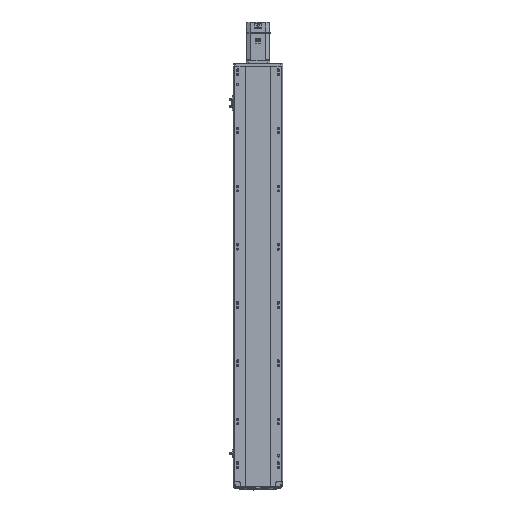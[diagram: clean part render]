
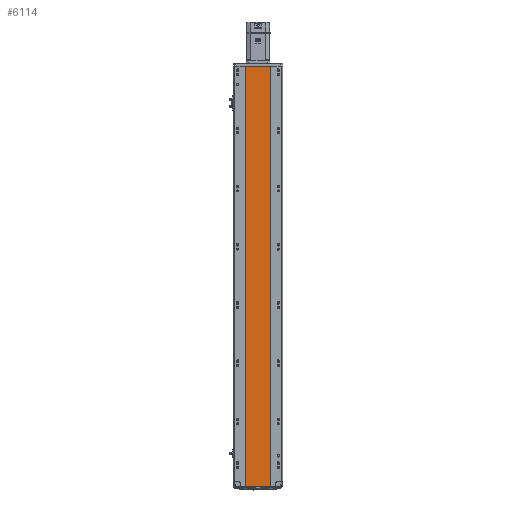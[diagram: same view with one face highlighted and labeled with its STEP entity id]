
A CAD part, front view. The second image highlights one B-rep face of the part: STEP entity #6114.
In plain terms, the highlighted planar face has unit normal (0, -1, 0).
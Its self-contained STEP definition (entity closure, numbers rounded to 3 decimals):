
#697 = LINE ( 'NONE', #52523, #21816 ) ;
#2543 = VECTOR ( 'NONE', #35635, 1000. ) ;
#3505 = EDGE_CURVE ( 'NONE', #22867, #3769, #34931, .T. ) ;
#3769 = VERTEX_POINT ( 'NONE', #19686 ) ;
#6114 = ADVANCED_FACE ( 'NONE', ( #8035 ), #15908, .F. ) ;
#8035 = FACE_OUTER_BOUND ( 'NONE', #17430, .T. ) ;
#8661 = ORIENTED_EDGE ( 'NONE', *, *, #32309, .T. ) ;
#8900 = EDGE_CURVE ( 'NONE', #40809, #51991, #23659, .T. ) ;
#15721 = CARTESIAN_POINT ( 'NONE',  ( 0., 0.999, 1443.5 ) ) ;
#15908 = PLANE ( 'NONE',  #29657 ) ;
#17430 = EDGE_LOOP ( 'NONE', ( #8661, #43088, #21828, #44350 ) ) ;
#17833 = VECTOR ( 'NONE', #37229, 1000. ) ;
#19686 = CARTESIAN_POINT ( 'NONE',  ( 41.793, 0.998, 0. ) ) ;
#21816 = VECTOR ( 'NONE', #41023, 1000. ) ;
#21828 = ORIENTED_EDGE ( 'NONE', *, *, #45813, .F. ) ;
#22867 = VERTEX_POINT ( 'NONE', #47697 ) ;
#23520 = CARTESIAN_POINT ( 'NONE',  ( -41.791, 1., 0. ) ) ;
#23659 = LINE ( 'NONE', #52064, #2543 ) ;
#23673 = VECTOR ( 'NONE', #44705, 1000. ) ;
#24253 = CARTESIAN_POINT ( 'NONE',  ( 0., 0.999, 1443.5 ) ) ;
#29657 = AXIS2_PLACEMENT_3D ( 'NONE', #15721, #37080, #45194 ) ;
#32309 = EDGE_CURVE ( 'NONE', #51991, #3769, #697, .T. ) ;
#34931 = LINE ( 'NONE', #36873, #17833 ) ;
#35635 = DIRECTION ( 'NONE',  ( 0., 0., -1. ) ) ;
#36873 = CARTESIAN_POINT ( 'NONE',  ( 41.793, 0.998, 1443.5 ) ) ;
#37080 = DIRECTION ( 'NONE',  ( 0., 1., 0. ) ) ;
#37229 = DIRECTION ( 'NONE',  ( 0., 0., -1. ) ) ;
#37495 = LINE ( 'NONE', #24253, #23673 ) ;
#40809 = VERTEX_POINT ( 'NONE', #42907 ) ;
#41023 = DIRECTION ( 'NONE',  ( 1., 0., 0. ) ) ;
#42907 = CARTESIAN_POINT ( 'NONE',  ( -41.791, 1., 1443.5 ) ) ;
#43088 = ORIENTED_EDGE ( 'NONE', *, *, #3505, .F. ) ;
#44350 = ORIENTED_EDGE ( 'NONE', *, *, #8900, .T. ) ;
#44705 = DIRECTION ( 'NONE',  ( 1., 0., 0. ) ) ;
#45194 = DIRECTION ( 'NONE',  ( -1., 0., 0. ) ) ;
#45813 = EDGE_CURVE ( 'NONE', #40809, #22867, #37495, .T. ) ;
#47697 = CARTESIAN_POINT ( 'NONE',  ( 41.793, 0.998, 1443.5 ) ) ;
#51991 = VERTEX_POINT ( 'NONE', #23520 ) ;
#52064 = CARTESIAN_POINT ( 'NONE',  ( -41.791, 1., 1443.5 ) ) ;
#52523 = CARTESIAN_POINT ( 'NONE',  ( 0., 0.999, 0. ) ) ;
